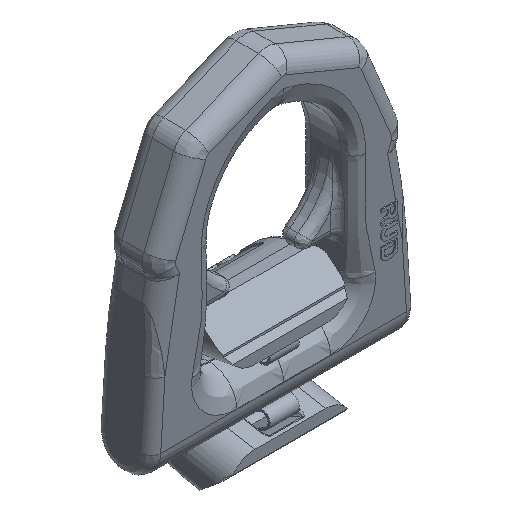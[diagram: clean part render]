
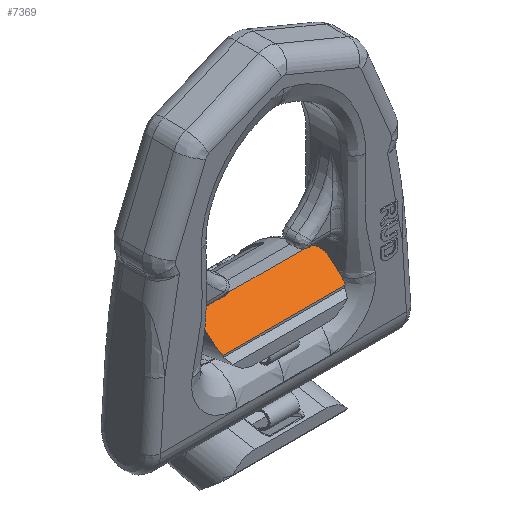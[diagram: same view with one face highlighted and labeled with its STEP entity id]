
A CAD part, isometric view. The second image highlights one B-rep face of the part: STEP entity #7369.
In plain terms, the highlighted planar face has unit normal (0, -0.643, 0.766).
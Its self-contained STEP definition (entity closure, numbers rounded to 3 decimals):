
#2=DIRECTION('',(0.,-0.766,-0.643));
#3=VECTOR('',#2,5.783);
#4=CARTESIAN_POINT('',(-30.,11.5,33.305));
#5=LINE('',#4,#3);
#59=DIRECTION('',(0.,-0.766,-0.643));
#60=VECTOR('',#59,5.783);
#61=CARTESIAN_POINT('',(30.,11.5,33.305));
#62=LINE('',#61,#60);
#450=CARTESIAN_POINT('',(-29.347,3.,26.172));
#451=CARTESIAN_POINT('',(-29.787,4.335,27.293));
#452=CARTESIAN_POINT('',(-30.,5.692,28.431));
#453=CARTESIAN_POINT('',(-30.,7.07,29.587));
#481=CARTESIAN_POINT('',(25.,16.5,37.5));
#482=CARTESIAN_POINT('',(25.48,16.5,37.5));
#483=CARTESIAN_POINT('',(26.277,16.374,37.395));
#484=CARTESIAN_POINT('',(27.557,15.883,36.983));
#485=CARTESIAN_POINT('',(28.749,14.957,36.205));
#486=CARTESIAN_POINT('',(29.704,13.48,34.966));
#487=CARTESIAN_POINT('',(30.,12.236,33.922));
#488=CARTESIAN_POINT('',(30.,11.5,33.305));
#494=DIRECTION('',(1.,0.,0.));
#495=VECTOR('',#494,50.);
#496=CARTESIAN_POINT('',(-25.,16.5,37.5));
#497=LINE('',#496,#495);
#511=CARTESIAN_POINT('',(-30.,11.5,33.305));
#512=CARTESIAN_POINT('',(-30.,12.236,33.922));
#513=CARTESIAN_POINT('',(-29.704,13.48,34.966));
#514=CARTESIAN_POINT('',(-28.749,14.957,36.205));
#515=CARTESIAN_POINT('',(-27.557,15.883,36.983));
#516=CARTESIAN_POINT('',(-26.277,16.374,37.395));
#517=CARTESIAN_POINT('',(-25.48,16.5,37.5));
#518=CARTESIAN_POINT('',(-25.,16.5,37.5));
#5432=CARTESIAN_POINT('',(30.,7.07,29.587));
#5433=CARTESIAN_POINT('',(30.,5.692,28.431));
#5434=CARTESIAN_POINT('',(29.787,4.335,27.293));
#5435=CARTESIAN_POINT('',(29.347,3.,26.172));
#5458=DIRECTION('',(-1.,0.,0.));
#5459=VECTOR('',#5458,58.693);
#5460=CARTESIAN_POINT('',(29.347,3.,26.172));
#5461=LINE('',#5460,#5459);
#5658=CARTESIAN_POINT('',(25.,16.5,37.5));
#5660=VERTEX_POINT('',#5658);
#5663=CARTESIAN_POINT('',(-25.,16.5,37.5));
#5665=VERTEX_POINT('',#5663);
#5958=CARTESIAN_POINT('',(30.,7.07,29.587));
#5959=VERTEX_POINT('',#5958);
#5960=CARTESIAN_POINT('',(-30.,7.07,29.587));
#5961=VERTEX_POINT('',#5960);
#5964=CARTESIAN_POINT('',(30.,11.5,33.305));
#5965=VERTEX_POINT('',#5964);
#5966=CARTESIAN_POINT('',(-30.,11.5,33.305));
#5967=VERTEX_POINT('',#5966);
#6211=VERTEX_POINT('',#5435);
#6212=VERTEX_POINT('',#450);
#7349=CARTESIAN_POINT('',(36.,16.5,37.5));
#7350=DIRECTION('',(0.,-0.643,0.766));
#7351=DIRECTION('',(0.,-0.766,-0.643));
#7352=AXIS2_PLACEMENT_3D('',#7349,#7350,#7351);
#7353=PLANE('',#7352);
#7355=ORIENTED_EDGE('',*,*,#7354,.T.);
#7356=ORIENTED_EDGE('',*,*,#6778,.T.);
#7358=ORIENTED_EDGE('',*,*,#7357,.T.);
#7360=ORIENTED_EDGE('',*,*,#7359,.T.);
#7361=ORIENTED_EDGE('',*,*,#7335,.T.);
#7362=ORIENTED_EDGE('',*,*,#6688,.F.);
#7364=ORIENTED_EDGE('',*,*,#7363,.T.);
#7366=ORIENTED_EDGE('',*,*,#7365,.T.);
#7367=EDGE_LOOP('',(#7355,#7356,#7358,#7360,#7361,#7362,#7364,#7366));
#7368=FACE_OUTER_BOUND('',#7367,.F.);
#7369=ADVANCED_FACE('',(#7368),#7353,.T.);
#454=B_SPLINE_CURVE_WITH_KNOTS('',3,(#450,#451,#452,#453),.UNSPECIFIED.,.F.,.F.,
(4,4),(0.,1.),.UNSPECIFIED.);
#489=B_SPLINE_CURVE_WITH_KNOTS('',3,(#481,#482,#483,#484,#485,#486,#487,#488),
.UNSPECIFIED.,.F.,.F.,(4,1,1,1,1,4),(0.,0.125,0.25,0.5,0.75,1.),
.UNSPECIFIED.);
#519=B_SPLINE_CURVE_WITH_KNOTS('',3,(#511,#512,#513,#514,#515,#516,#517,#518),
.UNSPECIFIED.,.F.,.F.,(4,1,1,1,1,4),(0.,0.25,0.5,0.75,0.875,1.),
.UNSPECIFIED.);
#5436=B_SPLINE_CURVE_WITH_KNOTS('',3,(#5432,#5433,#5434,#5435),.UNSPECIFIED.,
.F.,.F.,(4,4),(0.,1.),.UNSPECIFIED.);
#6688=EDGE_CURVE('',#5967,#5961,#5,.T.);
#6778=EDGE_CURVE('',#5965,#5959,#62,.T.);
#7335=EDGE_CURVE('',#6212,#5961,#454,.T.);
#7354=EDGE_CURVE('',#5660,#5965,#489,.T.);
#7357=EDGE_CURVE('',#5959,#6211,#5436,.T.);
#7359=EDGE_CURVE('',#6211,#6212,#5461,.T.);
#7363=EDGE_CURVE('',#5967,#5665,#519,.T.);
#7365=EDGE_CURVE('',#5665,#5660,#497,.T.);
